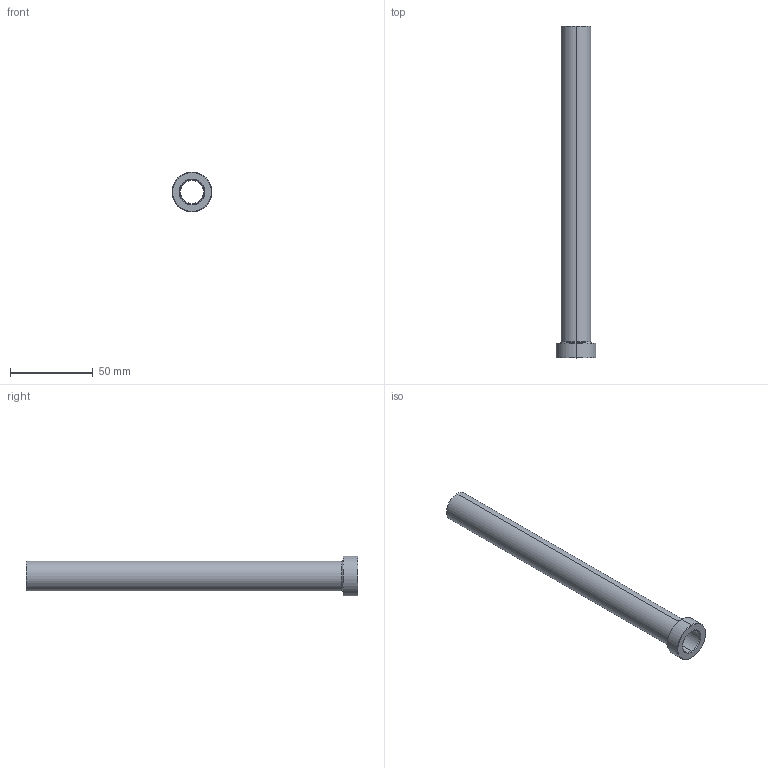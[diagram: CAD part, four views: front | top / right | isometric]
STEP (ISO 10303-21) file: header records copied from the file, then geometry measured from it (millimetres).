
FILE_DESCRIPTION (( 'STEP AP203' ), '1' );
FILE_NAME ('ESD14L200.step', '2022-02-04T21:20:30', ( 'Microsoft Corporation' ), ( 'MS' ), 'SwSTEP 2.0', 'SolidWorks 2019', '' );
FILE_SCHEMA (( 'CONFIG_CONTROL_DESIGN' ));
Length unit declared in the file: millimetre
Products named in the file (1): ESD14L200
Bounding box: 24 x 200 x 24 mm (x, y, z)
Volume: 20331.3 mm3; surface area: 21030.1 mm2
Topology: 1 solids, 1 shells, 21 faces, 42 edges, 24 vertices
Faces by surface type: cone 8, cylinder 8, plane 3, torus 2
Entity records: 627 total; most frequent: DIRECTION 112, CARTESIAN_POINT 88, ORIENTED_EDGE 84, AXIS2_PLACEMENT_3D 48, EDGE_CURVE 42, CIRCLE 26, EDGE_LOOP 24, VERTEX_POINT 24
